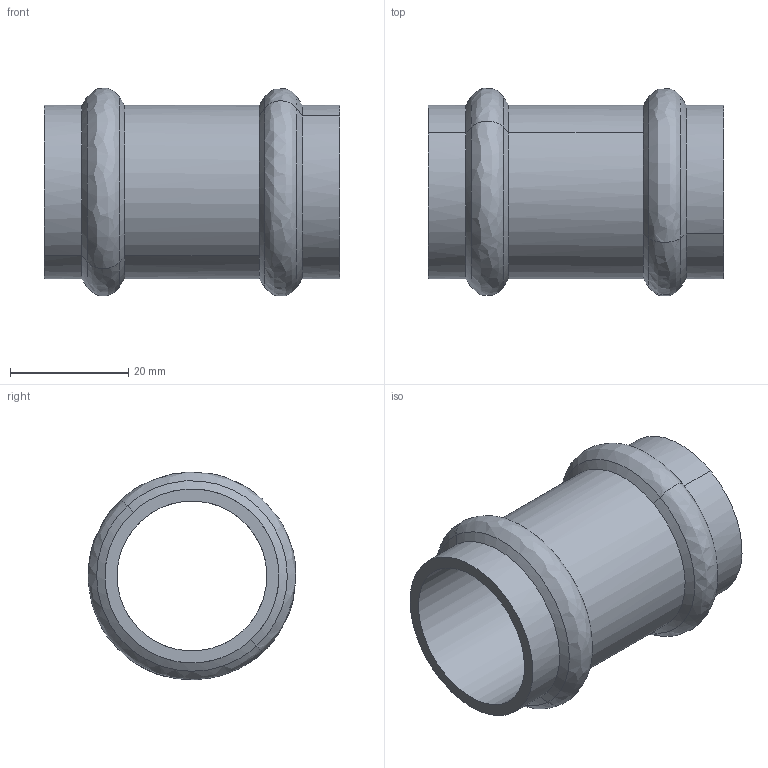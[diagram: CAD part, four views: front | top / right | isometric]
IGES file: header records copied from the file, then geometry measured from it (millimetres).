
Start section: 3D InterOp IGES (Version 25 0 1), Spatial Corp. Copyright (c) 1999-2007.
Global section: file name: pim0004415.igs; native system: Spatial Corp.; preprocessor: 3D InterOp ACIS/IGES; author: Cad-Pim; organization: TransMagic, Inc.; date: 20150430.065257; units: millimetre
Bounding box: 50 x 35.16 x 35.16 mm (x, y, z)
Volume: 11652.3 mm3; surface area: 9658.9 mm2
Topology: 1 solids, 1 shells, 22 faces, 58 edges, 38 vertices
Faces by surface type: cone 8, cylinder 8, bspline 6
